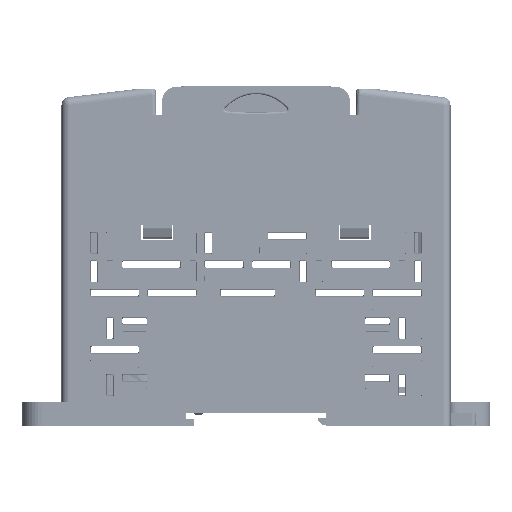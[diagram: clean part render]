
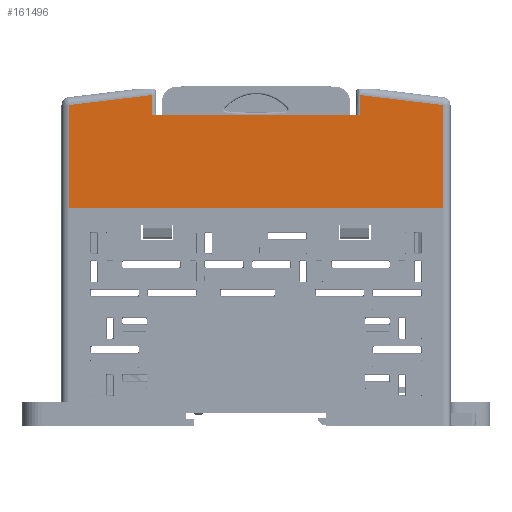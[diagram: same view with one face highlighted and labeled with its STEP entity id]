
A CAD part, left-side view. The second image highlights one B-rep face of the part: STEP entity #161496.
In plain terms, the highlighted planar face has unit normal (-1, 0, 0).
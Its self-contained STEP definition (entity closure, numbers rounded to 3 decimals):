
#137960=DIRECTION('',(0.,1.,0.));
#137961=VECTOR('',#137960,52.6);
#137962=CARTESIAN_POINT('',(-89.,-26.3,75.5));
#137963=LINE('',#137962,#137961);
#138819=CARTESIAN_POINT('',(-89.,26.387,
80.457));
#138865=DIRECTION('',(0.,-0.017,1.));
#138866=VECTOR('',#138865,4.957);
#138867=CARTESIAN_POINT('',(-89.,-26.3,75.5));
#138868=LINE('',#138867,#138866);
#138869=DIRECTION('',(0.,0.993,0.12));
#138870=VECTOR('',#138869,21.016);
#138871=CARTESIAN_POINT('',(-89.,-47.25,77.928));
#138872=LINE('',#138871,#138870);
#138873=DIRECTION('',(0.,-1.,0.));
#138874=VECTOR('',#138873,94.5);
#138875=CARTESIAN_POINT('',(-89.,47.25,51.9));
#138876=LINE('',#138875,#138874);
#138877=DIRECTION('',(0.,0.,1.));
#138878=VECTOR('',#138877,26.028);
#138879=CARTESIAN_POINT('',(-89.,47.25,51.9));
#138880=LINE('',#138879,#138878);
#138881=DIRECTION('',(0.,0.993,-0.12));
#138882=VECTOR('',#138881,21.016);
#138883=CARTESIAN_POINT('',(-89.,26.387,
80.457));
#138884=LINE('',#138883,#138882);
#138885=DIRECTION('',(0.,0.017,1.));
#138886=VECTOR('',#138885,4.957);
#138887=CARTESIAN_POINT('',(-89.,26.3,75.5));
#138888=LINE('',#138887,#138886);
#146042=CARTESIAN_POINT('',(-89.,-26.387,
80.457));
#146090=DIRECTION('',(0.,0.,1.));
#146091=VECTOR('',#146090,26.028);
#146092=CARTESIAN_POINT('',(-89.,-47.25,51.9));
#146093=LINE('',#146092,#146091);
#151512=CARTESIAN_POINT('',(-89.,47.25,51.9));
#151513=CARTESIAN_POINT('',(-89.,-47.25,51.9));
#151514=VERTEX_POINT('',#151512);
#151515=VERTEX_POINT('',#151513);
#151918=CARTESIAN_POINT('',(-89.,47.25,77.928));
#151919=VERTEX_POINT('',#151918);
#151920=CARTESIAN_POINT('',(-89.,-47.25,77.928));
#151921=VERTEX_POINT('',#151920);
#151980=VERTEX_POINT('',#146042);
#151984=CARTESIAN_POINT('',(-89.,-26.3,75.5));
#151985=VERTEX_POINT('',#151984);
#151991=VERTEX_POINT('',#138819);
#151992=CARTESIAN_POINT('',(-89.,26.3,75.5));
#151993=VERTEX_POINT('',#151992);
#161478=CARTESIAN_POINT('',(-89.,47.25,51.8));
#161479=DIRECTION('',(-1.,0.,0.));
#161480=DIRECTION('',(0.,-1.,0.));
#161481=AXIS2_PLACEMENT_3D('',#161478,#161479,#161480);
#161482=PLANE('',#161481);
#161484=ORIENTED_EDGE('',*,*,#161483,.T.);
#161486=ORIENTED_EDGE('',*,*,#161485,.F.);
#161488=ORIENTED_EDGE('',*,*,#161487,.F.);
#161489=ORIENTED_EDGE('',*,*,#159036,.F.);
#161490=ORIENTED_EDGE('',*,*,#161377,.T.);
#161491=ORIENTED_EDGE('',*,*,#161403,.F.);
#161492=ORIENTED_EDGE('',*,*,#161470,.F.);
#161493=ORIENTED_EDGE('',*,*,#160557,.F.);
#161494=EDGE_LOOP('',(#161484,#161486,#161488,#161489,#161490,#161491,#161492,
#161493));
#161495=FACE_OUTER_BOUND('',#161494,.F.);
#161496=ADVANCED_FACE('',(#161495),#161482,.T.);
#159036=EDGE_CURVE('',#151514,#151515,#138876,.T.);
#160557=EDGE_CURVE('',#151985,#151993,#137963,.T.);
#161377=EDGE_CURVE('',#151514,#151919,#138880,.T.);
#161403=EDGE_CURVE('',#151991,#151919,#138884,.T.);
#161470=EDGE_CURVE('',#151993,#151991,#138888,.T.);
#161483=EDGE_CURVE('',#151985,#151980,#138868,.T.);
#161485=EDGE_CURVE('',#151921,#151980,#138872,.T.);
#161487=EDGE_CURVE('',#151515,#151921,#146093,.T.);
